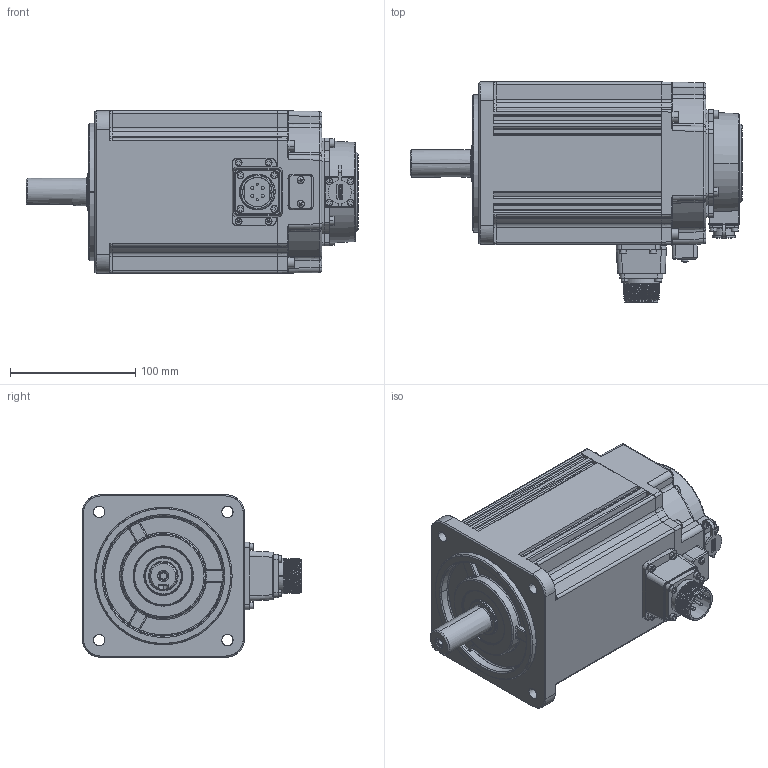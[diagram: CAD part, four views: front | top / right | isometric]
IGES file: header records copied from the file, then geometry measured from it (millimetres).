
Start section: SolidWorks IGES file using analytic representation for surfaces
Global section: file name: D:\xi\MS6G-130 油封\MS6G-130CS(M)(TL)15E2-42P3（14615）\MS6G-130CS(M)(TL)15B2-42P3（14615）\MS6G-130CS15EZ2-22P3.IGS; native system: SolidWorks 2022; preprocessor: SolidWorks 2022; author: xishengxian; date: 231011.091851; units: millimetre
Bounding box: 265.5 x 175.9 x 130 mm (x, y, z)
Surface area: 176565.8 mm2 (no closed solid volume)
Topology: 0 solids, 0 shells, 1074 faces, 13696 edges, 13660 vertices
Faces by surface type: bspline 668, revolution 406
